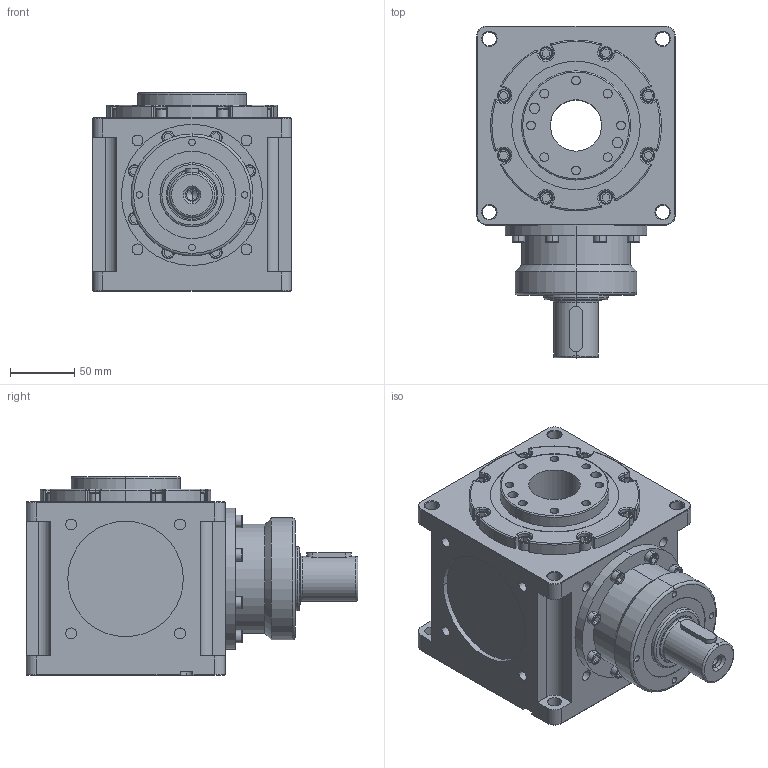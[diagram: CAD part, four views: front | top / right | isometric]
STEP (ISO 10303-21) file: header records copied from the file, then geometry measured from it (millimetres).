
FILE_DESCRIPTION (( 'STEP AP214' ), '1' );
FILE_NAME ('CCT155A-002-RF.STEP', '2025-05-24T05:21:06', ( '微软用户' ), ( '微软中国' ), 'SwSTEP 2.0', 'SolidWorks 2024', '' );
FILE_SCHEMA (( 'AUTOMOTIVE_DESIGN' ));
Length unit declared in the file: millimetre
Products named in the file (3): CCT155A-002-RF; CCW155A输入组件; CCW155A-002-FR箱体
Assembly tree (2 placements, depth 2):
  CCT155A-002-RF
    CCW155A-002-FR箱体
    CCW155A输入组件
Bounding box: 155 x 258.5 x 154.5 mm (x, y, z)
Volume: 3307934.3 mm3; surface area: 226019.7 mm2
Topology: 2 solids, 2 shells, 564 faces, 1313 edges, 813 vertices
Faces by surface type: plane 234, cylinder 219, torus 65, cone 30, sphere 16
Entity records: 16162 total; most frequent: DIRECTION 3026, CARTESIAN_POINT 2755, ORIENTED_EDGE 2590, EDGE_CURVE 1295, AXIS2_PLACEMENT_3D 1166, VERTEX_POINT 813, VECTOR 694, LINE 694
